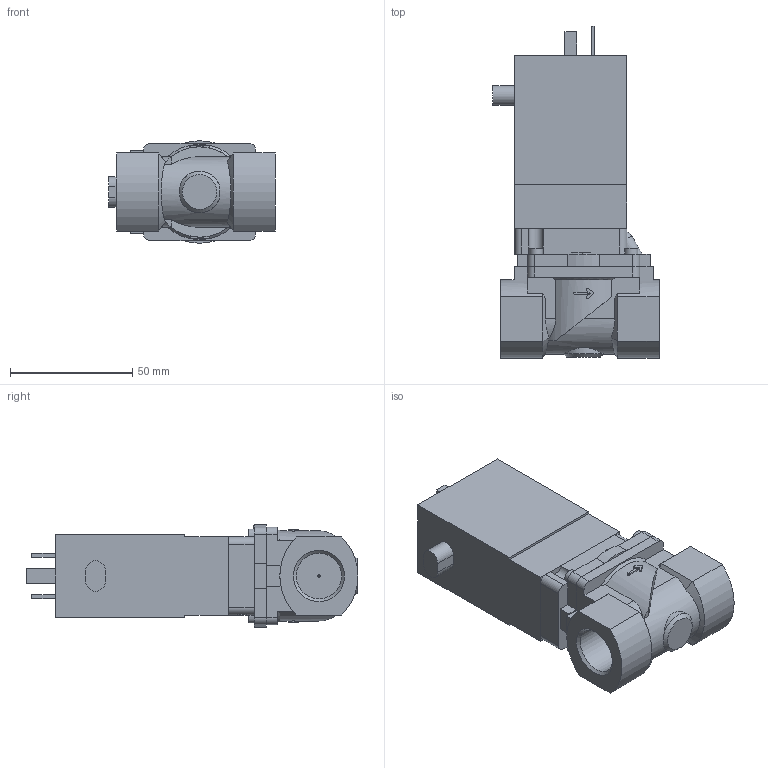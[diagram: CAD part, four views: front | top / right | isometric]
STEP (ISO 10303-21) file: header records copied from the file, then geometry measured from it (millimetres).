
FILE_DESCRIPTION( ( 'STEP AP214' ), '1' );
FILE_NAME( 'p:/temp/worker_9/temp/app_42_02018103112432598608499192d056f_000000_00_00_000000/format_0/5282-281976-Servo-assisted_2_2_way_diaphragm_valve.stp', '2018-10-31T11:43:26', ( '' ), ( '' ), ' ', 'PARTsolutions', ' ' );
FILE_SCHEMA( ( 'AUTOMOTIVE_DESIGN { 1 0 10303 214 1 1 1 1 }' ) );
Length unit declared in the file: millimetre
Products named in the file (4): 5282-281976-Servo-assisted 2/2 way diaphragm valve; HI_5282d-13VAOO0-2/2-Wege-Magnetventil_Deckel; HI_5282g-8413VA -2/2-Wege-Magnetventil_Gehaeuse; HI_0331-VA-3/2-way-Solenoid-Valve or 4-way-combination
Assembly tree (3 placements, depth 2):
  5282-281976-Servo-assisted 2/2 way diaphragm valve
    HI_5282d-13VAOO0-2/2-Wege-Magnetventil_Deckel
    HI_5282g-8413VA -2/2-Wege-Magnetventil_Gehaeuse
    HI_0331-VA-3/2-way-Solenoid-Valve or 4-way-combination
Bounding box: 68.25 x 136 x 42 mm (x, y, z)
Volume: 194164.8 mm3; surface area: 35663.5 mm2
Topology: 3 solids, 3 shells, 213 faces, 554 edges, 363 vertices
Faces by surface type: plane 143, cylinder 58, cone 11, sphere 1
Full cylindrical faces by diameter (mm): 1 x1, 3 x1, 5.5 x4, 8 x1, 9.2 x1, 18.631 x2
Entity records: 8501 total; most frequent: CARTESIAN_POINT 1513, ORIENTED_EDGE 1078, DIRECTION 1071, EDGE_CURVE 539, VERTEX_POINT 361, AXIS2_PLACEMENT_3D 359, LINE 353, VECTOR 353
